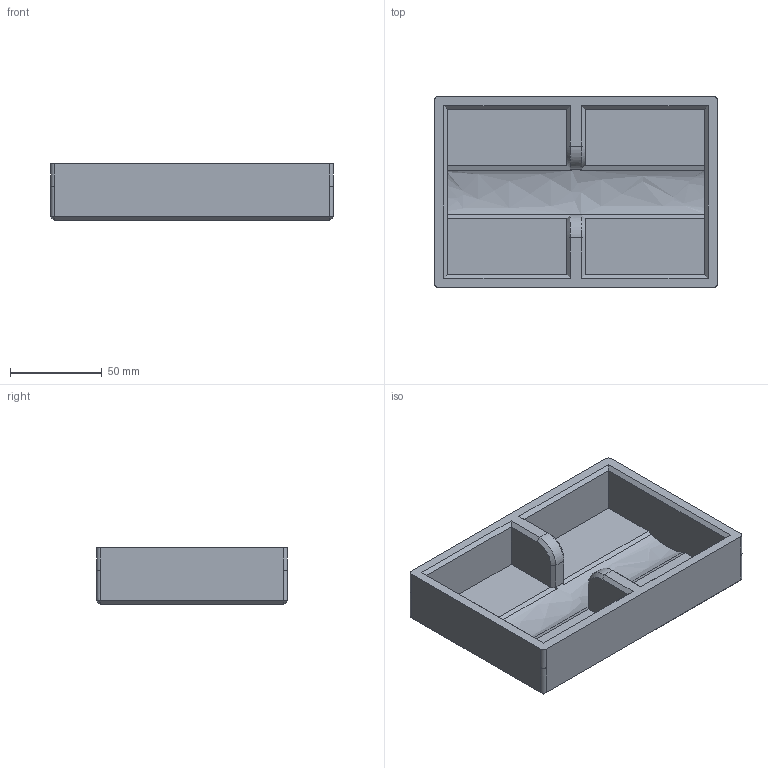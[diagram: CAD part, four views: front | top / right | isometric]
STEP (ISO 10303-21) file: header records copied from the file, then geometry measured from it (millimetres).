
FILE_DESCRIPTION(/* description */ (''),/* implementation_level */ '2;1');
FILE_NAME(/* name */ 'BOXINS~1',/* time_stamp */ '2024-05-05T14:40:57+02:00',/* author */ (''),/* organization */ (''),/* preprocessor_version */ 'ST-DEVELOPER v16.5',/* originating_system */ '',/* authorisation */ '');
FILE_SCHEMA (('AUTOMOTIVE_DESIGN'));
Length unit declared in the file: millimetre
Products named in the file (1): Document
Bounding box: 154 x 104 x 31 mm (x, y, z)
Volume: 162279.2 mm3; surface area: 62513.3 mm2
Topology: 1 solids, 1 shells, 63 faces, 156 edges, 96 vertices
Faces by surface type: plane 44, bspline 19
Entity records: 1792 total; most frequent: CARTESIAN_POINT 763, ORIENTED_EDGE 312, EDGE_CURVE 156, B_SPLINE_CURVE_WITH_KNOTS 126, VERTEX_POINT 96, EDGE_LOOP 64, ADVANCED_FACE 63, FACE_OUTER_BOUND 63
